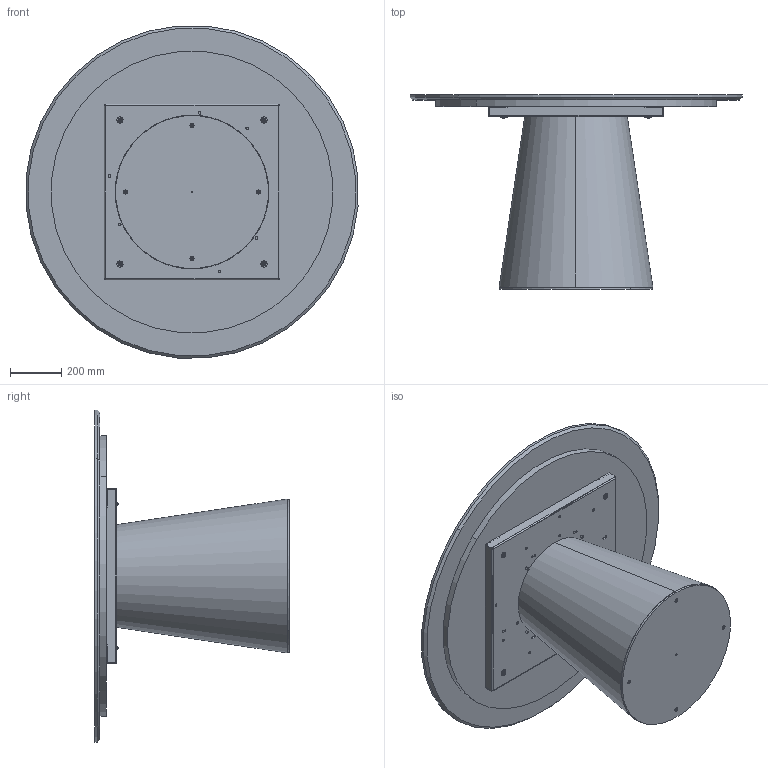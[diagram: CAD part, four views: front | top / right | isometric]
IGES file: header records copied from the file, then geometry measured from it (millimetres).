
Start section: SolidWorks IGES file using analytic representation for surfaces
Global section: file name: Y:\eforma\TECNICO\SOLIDWORKS\E-FORMA\1-TAVOLI\TEO\08 modelli 3D web\TO05M_Teo_d.130_Marble.IGS; native system: SolidWorks 2022; preprocessor: SolidWorks 2022; author: eforma.tech; date: 240802.111729; units: millimetre
Bounding box: 1295.05 x 758.19 x 1295.05 mm (x, y, z)
Volume: 80346206.7 mm3; surface area: 9127347.1 mm2
Topology: 21 solids, 21 shells, 818 faces, 2040 edges, 1253 vertices
Faces by surface type: revolution 446, plane 372
